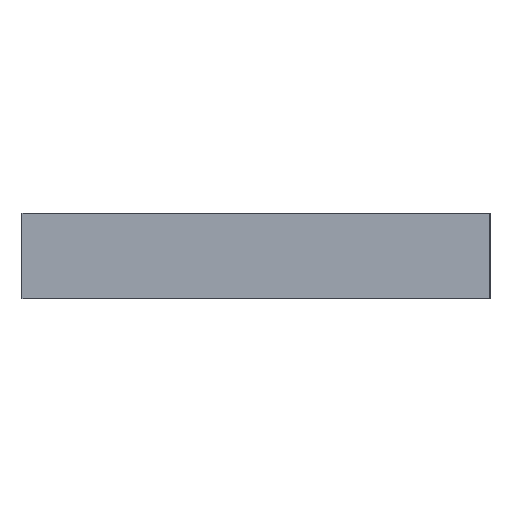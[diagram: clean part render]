
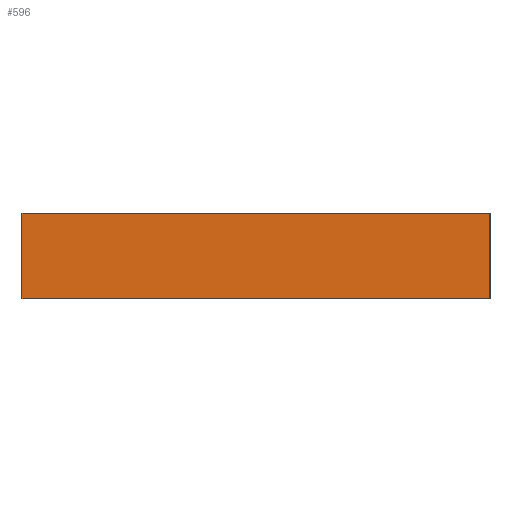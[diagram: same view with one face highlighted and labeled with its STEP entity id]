
A CAD part, left-side view. The second image highlights one B-rep face of the part: STEP entity #596.
In plain terms, the highlighted planar face has unit normal (-1, 0, 0).
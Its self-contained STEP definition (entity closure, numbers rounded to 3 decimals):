
#31 = VECTOR ( 'NONE', #358, 1000. ) ;
#288 = ORIENTED_EDGE ( 'NONE', *, *, #2166, .T. ) ;
#353 = ORIENTED_EDGE ( 'NONE', *, *, #811, .F. ) ;
#358 = DIRECTION ( 'NONE',  ( 0., -1., 0. ) ) ;
#443 = FACE_OUTER_BOUND ( 'NONE', #1885, .T. ) ;
#451 = CARTESIAN_POINT ( 'NONE',  ( 0., 110., 20. ) ) ;
#466 = CARTESIAN_POINT ( 'NONE',  ( 0., 0., 20. ) ) ;
#474 = CARTESIAN_POINT ( 'NONE',  ( 0., 0., 20. ) ) ;
#507 = VECTOR ( 'NONE', #1778, 1000. ) ;
#513 = ORIENTED_EDGE ( 'NONE', *, *, #1820, .T. ) ;
#575 = DIRECTION ( 'NONE',  ( 1., 0., 0. ) ) ;
#596 = ADVANCED_FACE ( 'NONE', ( #443 ), #2168, .F. ) ;
#643 = CARTESIAN_POINT ( 'NONE',  ( 0., 110., 0. ) ) ;
#673 = VERTEX_POINT ( 'NONE', #1729 ) ;
#722 = LINE ( 'NONE', #1071, #507 ) ;
#757 = DIRECTION ( 'NONE',  ( 0., 0., -1. ) ) ;
#811 = EDGE_CURVE ( 'NONE', #673, #1229, #2277, .T. ) ;
#1007 = DIRECTION ( 'NONE',  ( 0., 0., -1. ) ) ;
#1027 = VERTEX_POINT ( 'NONE', #2146 ) ;
#1029 = VECTOR ( 'NONE', #2215, 1000. ) ;
#1071 = CARTESIAN_POINT ( 'NONE',  ( 0., 0., 0. ) ) ;
#1089 = CARTESIAN_POINT ( 'NONE',  ( 0., 0., 20. ) ) ;
#1229 = VERTEX_POINT ( 'NONE', #474 ) ;
#1383 = EDGE_CURVE ( 'NONE', #1229, #1027, #1578, .T. ) ;
#1416 = ORIENTED_EDGE ( 'NONE', *, *, #1383, .F. ) ;
#1578 = LINE ( 'NONE', #466, #2093 ) ;
#1729 = CARTESIAN_POINT ( 'NONE',  ( 0., 110., 20. ) ) ;
#1745 = AXIS2_PLACEMENT_3D ( 'NONE', #1089, #575, #757 ) ;
#1778 = DIRECTION ( 'NONE',  ( 0., -1., 0. ) ) ;
#1787 = CARTESIAN_POINT ( 'NONE',  ( 0., 0., 20. ) ) ;
#1820 = EDGE_CURVE ( 'NONE', #2214, #1027, #722, .T. ) ;
#1881 = LINE ( 'NONE', #451, #1029 ) ;
#1885 = EDGE_LOOP ( 'NONE', ( #513, #1416, #353, #288 ) ) ;
#2093 = VECTOR ( 'NONE', #1007, 1000. ) ;
#2146 = CARTESIAN_POINT ( 'NONE',  ( 0., 0., 0. ) ) ;
#2166 = EDGE_CURVE ( 'NONE', #673, #2214, #1881, .T. ) ;
#2168 = PLANE ( 'NONE',  #1745 ) ;
#2214 = VERTEX_POINT ( 'NONE', #643 ) ;
#2215 = DIRECTION ( 'NONE',  ( 0., 0., -1. ) ) ;
#2277 = LINE ( 'NONE', #1787, #31 ) ;
